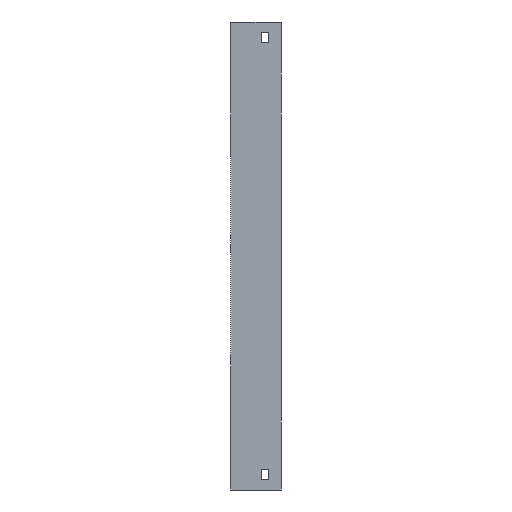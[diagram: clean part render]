
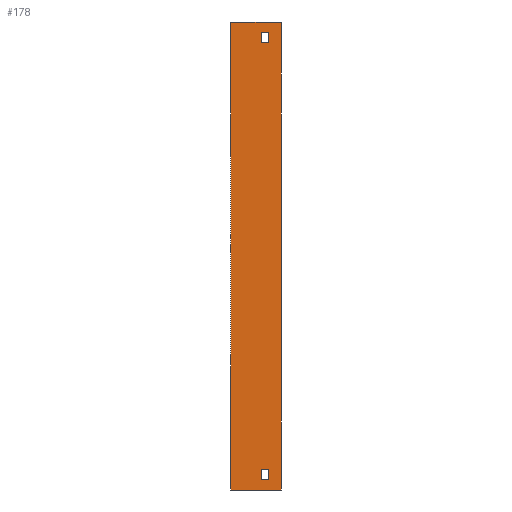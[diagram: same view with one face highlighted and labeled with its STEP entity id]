
A CAD part, left-side view. The second image highlights one B-rep face of the part: STEP entity #178.
In plain terms, the highlighted planar face has unit normal (-1, 0, 0).
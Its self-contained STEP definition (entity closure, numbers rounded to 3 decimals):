
#27 = ORIENTED_EDGE ( 'NONE', *, *, #1196, .F. ) ;
#86 = ORIENTED_EDGE ( 'NONE', *, *, #1590, .T. ) ;
#109 = VERTEX_POINT ( 'NONE', #1518 ) ;
#116 = VERTEX_POINT ( 'NONE', #1074 ) ;
#129 = LINE ( 'NONE', #229, #625 ) ;
#153 = CARTESIAN_POINT ( 'NONE',  ( -304., 20., 20. ) ) ;
#155 = EDGE_CURVE ( 'NONE', #720, #109, #304, .T. ) ;
#178 = ADVANCED_FACE ( 'NONE', ( #1131, #839, #1939 ), #743, .F. ) ;
#192 = CARTESIAN_POINT ( 'NONE',  ( -304., 20., -424. ) ) ;
#229 = CARTESIAN_POINT ( 'NONE',  ( -304., 20., -414. ) ) ;
#295 = DIRECTION ( 'NONE',  ( 1., 0., 0. ) ) ;
#297 = VECTOR ( 'NONE', #1281, 1000. ) ;
#304 = LINE ( 'NONE', #153, #1686 ) ;
#331 = CARTESIAN_POINT ( 'NONE',  ( -304., 20., 10. ) ) ;
#346 = EDGE_LOOP ( 'NONE', ( #27, #713, #1589, #1328 ) ) ;
#356 = CARTESIAN_POINT ( 'NONE',  ( -304., 13., 20. ) ) ;
#363 = EDGE_LOOP ( 'NONE', ( #670, #571, #1608, #1486 ) ) ;
#369 = LINE ( 'NONE', #1562, #297 ) ;
#371 = CARTESIAN_POINT ( 'NONE',  ( -304., 20., -424. ) ) ;
#400 = VECTOR ( 'NONE', #1363, 1000. ) ;
#454 = VERTEX_POINT ( 'NONE', #1633 ) ;
#462 = LINE ( 'NONE', #1445, #1045 ) ;
#465 = CARTESIAN_POINT ( 'NONE',  ( -304., 0., -434. ) ) ;
#510 = CARTESIAN_POINT ( 'NONE',  ( -304., 20., -424. ) ) ;
#528 = CARTESIAN_POINT ( 'NONE',  ( -304., 50., 30. ) ) ;
#532 = EDGE_LOOP ( 'NONE', ( #1945, #86, #1718, #1296 ) ) ;
#542 = EDGE_CURVE ( 'NONE', #454, #548, #821, .T. ) ;
#548 = VERTEX_POINT ( 'NONE', #858 ) ;
#571 = ORIENTED_EDGE ( 'NONE', *, *, #1143, .F. ) ;
#589 = LINE ( 'NONE', #957, #1625 ) ;
#611 = VERTEX_POINT ( 'NONE', #1458 ) ;
#625 = VECTOR ( 'NONE', #833, 1000. ) ;
#639 = EDGE_CURVE ( 'NONE', #1416, #1176, #1646, .T. ) ;
#661 = CARTESIAN_POINT ( 'NONE',  ( -304., 0., 30. ) ) ;
#670 = ORIENTED_EDGE ( 'NONE', *, *, #639, .T. ) ;
#713 = ORIENTED_EDGE ( 'NONE', *, *, #1884, .F. ) ;
#714 = LINE ( 'NONE', #1651, #1247 ) ;
#720 = VERTEX_POINT ( 'NONE', #1405 ) ;
#743 = PLANE ( 'NONE',  #1451 ) ;
#759 = DIRECTION ( 'NONE',  ( 0., -1., 0. ) ) ;
#761 = LINE ( 'NONE', #331, #400 ) ;
#767 = EDGE_CURVE ( 'NONE', #116, #1913, #714, .T. ) ;
#821 = LINE ( 'NONE', #1731, #1102 ) ;
#824 = VECTOR ( 'NONE', #975, 1000. ) ;
#833 = DIRECTION ( 'NONE',  ( 0., 1., 0. ) ) ;
#839 = FACE_BOUND ( 'NONE', #532, .T. ) ;
#858 = CARTESIAN_POINT ( 'NONE',  ( -304., 13., -414. ) ) ;
#873 = DIRECTION ( 'NONE',  ( 0., -1., 0. ) ) ;
#893 = EDGE_CURVE ( 'NONE', #611, #720, #761, .T. ) ;
#904 = DIRECTION ( 'NONE',  ( 0., 0., -1. ) ) ;
#933 = CARTESIAN_POINT ( 'NONE',  ( -304., 13., 20. ) ) ;
#957 = CARTESIAN_POINT ( 'NONE',  ( -304., 50., -434. ) ) ;
#975 = DIRECTION ( 'NONE',  ( 0., 0., -1. ) ) ;
#996 = LINE ( 'NONE', #510, #824 ) ;
#1031 = DIRECTION ( 'NONE',  ( 0., 0., 1. ) ) ;
#1042 = CARTESIAN_POINT ( 'NONE',  ( -304., 50., -434. ) ) ;
#1045 = VECTOR ( 'NONE', #873, 1000. ) ;
#1074 = CARTESIAN_POINT ( 'NONE',  ( -304., 50., -434. ) ) ;
#1094 = DIRECTION ( 'NONE',  ( 0., 0., 1. ) ) ;
#1102 = VECTOR ( 'NONE', #1301, 1000. ) ;
#1111 = VECTOR ( 'NONE', #1705, 1000. ) ;
#1131 = FACE_OUTER_BOUND ( 'NONE', #363, .T. ) ;
#1143 = EDGE_CURVE ( 'NONE', #1913, #1176, #369, .T. ) ;
#1176 = VERTEX_POINT ( 'NONE', #661 ) ;
#1196 = EDGE_CURVE ( 'NONE', #1690, #454, #1535, .T. ) ;
#1201 = VECTOR ( 'NONE', #1094, 1000. ) ;
#1202 = CARTESIAN_POINT ( 'NONE',  ( -304., 20., -414. ) ) ;
#1209 = VECTOR ( 'NONE', #1233, 1000. ) ;
#1213 = EDGE_CURVE ( 'NONE', #1881, #611, #1712, .T. ) ;
#1233 = DIRECTION ( 'NONE',  ( 0., -1., 0. ) ) ;
#1247 = VECTOR ( 'NONE', #1031, 1000. ) ;
#1281 = DIRECTION ( 'NONE',  ( 0., -1., 0. ) ) ;
#1296 = ORIENTED_EDGE ( 'NONE', *, *, #893, .T. ) ;
#1301 = DIRECTION ( 'NONE',  ( 0., 0., 1. ) ) ;
#1328 = ORIENTED_EDGE ( 'NONE', *, *, #542, .F. ) ;
#1363 = DIRECTION ( 'NONE',  ( 0., 1., 0. ) ) ;
#1405 = CARTESIAN_POINT ( 'NONE',  ( -304., 20., 10. ) ) ;
#1413 = EDGE_CURVE ( 'NONE', #548, #1585, #129, .T. ) ;
#1416 = VERTEX_POINT ( 'NONE', #1647 ) ;
#1445 = CARTESIAN_POINT ( 'NONE',  ( -304., 20., 20. ) ) ;
#1451 = AXIS2_PLACEMENT_3D ( 'NONE', #1042, #295, #904 ) ;
#1458 = CARTESIAN_POINT ( 'NONE',  ( -304., 13., 10. ) ) ;
#1473 = EDGE_CURVE ( 'NONE', #116, #1416, #589, .T. ) ;
#1486 = ORIENTED_EDGE ( 'NONE', *, *, #1473, .T. ) ;
#1518 = CARTESIAN_POINT ( 'NONE',  ( -304., 20., 20. ) ) ;
#1535 = LINE ( 'NONE', #192, #1209 ) ;
#1562 = CARTESIAN_POINT ( 'NONE',  ( -304., 50., 30. ) ) ;
#1585 = VERTEX_POINT ( 'NONE', #1202 ) ;
#1589 = ORIENTED_EDGE ( 'NONE', *, *, #1413, .F. ) ;
#1590 = EDGE_CURVE ( 'NONE', #109, #1881, #462, .T. ) ;
#1608 = ORIENTED_EDGE ( 'NONE', *, *, #767, .F. ) ;
#1625 = VECTOR ( 'NONE', #759, 1000. ) ;
#1633 = CARTESIAN_POINT ( 'NONE',  ( -304., 13., -424. ) ) ;
#1646 = LINE ( 'NONE', #465, #1201 ) ;
#1647 = CARTESIAN_POINT ( 'NONE',  ( -304., 0., -434. ) ) ;
#1651 = CARTESIAN_POINT ( 'NONE',  ( -304., 50., -434. ) ) ;
#1686 = VECTOR ( 'NONE', #1812, 1000. ) ;
#1690 = VERTEX_POINT ( 'NONE', #371 ) ;
#1705 = DIRECTION ( 'NONE',  ( 0., 0., -1. ) ) ;
#1712 = LINE ( 'NONE', #356, #1111 ) ;
#1718 = ORIENTED_EDGE ( 'NONE', *, *, #1213, .T. ) ;
#1731 = CARTESIAN_POINT ( 'NONE',  ( -304., 13., -424. ) ) ;
#1812 = DIRECTION ( 'NONE',  ( 0., 0., 1. ) ) ;
#1881 = VERTEX_POINT ( 'NONE', #933 ) ;
#1884 = EDGE_CURVE ( 'NONE', #1585, #1690, #996, .T. ) ;
#1913 = VERTEX_POINT ( 'NONE', #528 ) ;
#1939 = FACE_BOUND ( 'NONE', #346, .T. ) ;
#1945 = ORIENTED_EDGE ( 'NONE', *, *, #155, .T. ) ;
